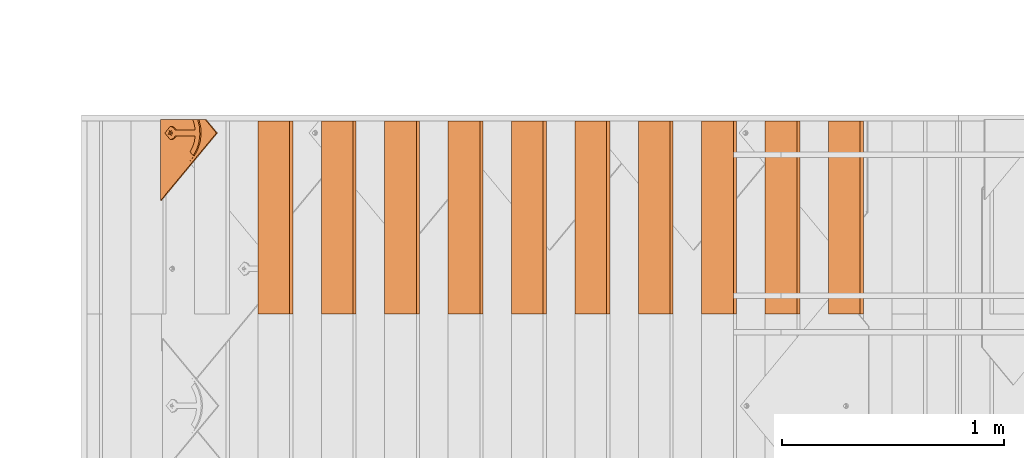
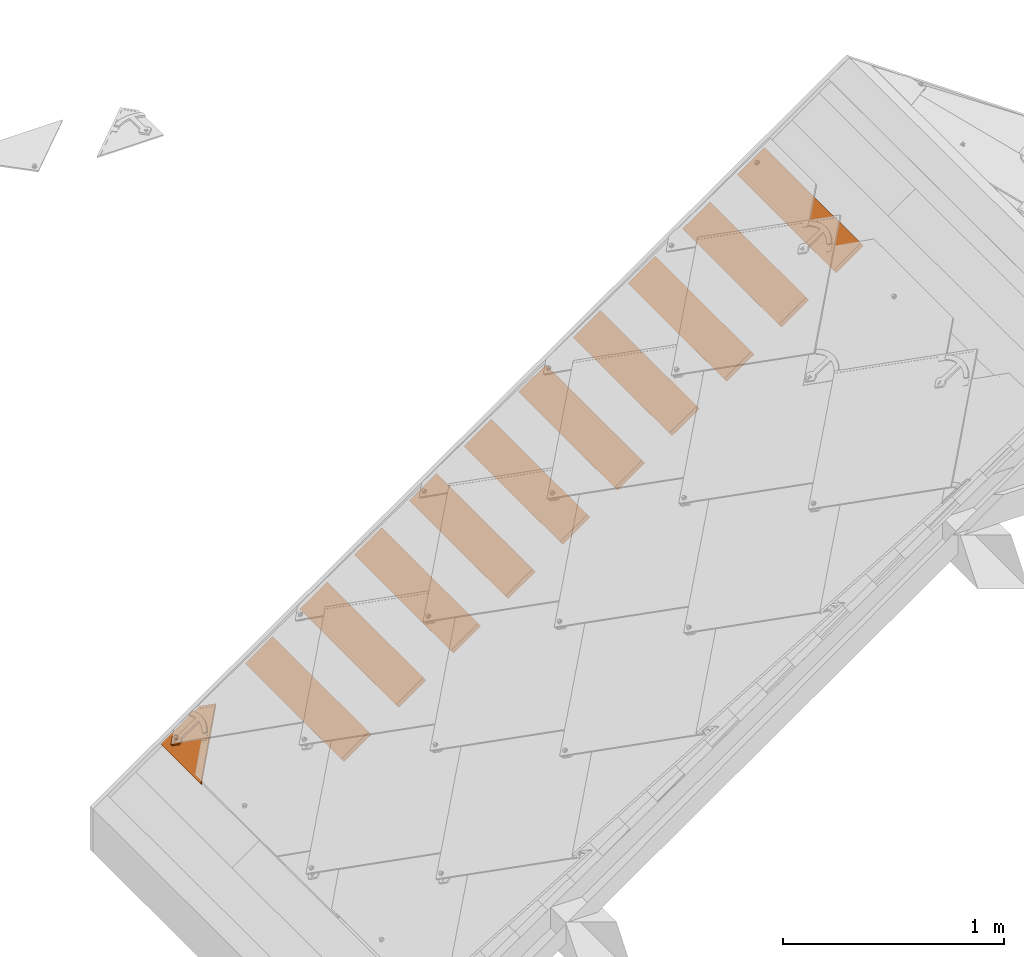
# One storey, part 121 of 151: 11 proxies, 1 element without a shape of its own.
"""IFC2X3 building model written with IfcOpenShell, lengths in millimetres."""

from ifc_helpers import new_model, entity, si_unit, converted_unit, derived_unit, direction, frame, frame_2d, origin, place, context, subcontext, project, spatial, rectangle, extrude, faceted_brep, source, transform, mapped, material, material_list, type_object, type_shapes, element, aggregate, save


model = new_model("IFC2X3")

# Units and contexts
model_context = context("Model", 3, precision=0.01, world=origin(), true_north=direction((6.12303176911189e-17, 1.0)))
body_context = subcontext(model_context, "Body", "Model", "MODEL_VIEW")
ifc_project = project(units=[si_unit("LENGTHUNIT", "METRE", prefix="MILLI"), si_unit("AREAUNIT", "SQUARE_METRE"), si_unit("VOLUMEUNIT", "CUBIC_METRE"), converted_unit("PLANEANGLEUNIT", "DEGREE", entity("IfcRatioMeasure", 0.0174532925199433), si_unit("PLANEANGLEUNIT", "RADIAN"), dimensions=[0, 0, 0, 0, 0, 0, 0]), si_unit("MASSUNIT", "GRAM", prefix="KILO"), derived_unit("MASSDENSITYUNIT", [(si_unit("MASSUNIT", "GRAM", prefix="KILO"), 1), (si_unit("LENGTHUNIT", "METRE"), -3)]), si_unit("TIMEUNIT", "SECOND"), si_unit("FREQUENCYUNIT", "HERTZ"), si_unit("THERMODYNAMICTEMPERATUREUNIT", "DEGREE_CELSIUS"), derived_unit("THERMALTRANSMITTANCEUNIT", [(si_unit("MASSUNIT", "GRAM", prefix="KILO"), 1), (si_unit("THERMODYNAMICTEMPERATUREUNIT", "KELVIN"), -1), (si_unit("TIMEUNIT", "SECOND"), -3)]), derived_unit("VOLUMETRICFLOWRATEUNIT", [(si_unit("LENGTHUNIT", "METRE"), 3), (si_unit("TIMEUNIT", "SECOND"), -1)]), si_unit("ELECTRICCURRENTUNIT", "AMPERE"), si_unit("ELECTRICVOLTAGEUNIT", "VOLT"), si_unit("POWERUNIT", "WATT"), si_unit("FORCEUNIT", "NEWTON", prefix="KILO"), si_unit("ILLUMINANCEUNIT", "LUX"), si_unit("LUMINOUSFLUXUNIT", "LUMEN"), si_unit("LUMINOUSINTENSITYUNIT", "CANDELA"), derived_unit("USERDEFINED", [(si_unit("MASSUNIT", "GRAM", prefix="KILO"), -1), (si_unit("LENGTHUNIT", "METRE"), -2), (si_unit("TIMEUNIT", "SECOND"), 3), (si_unit("LUMINOUSFLUXUNIT", "LUMEN"), 1)]), derived_unit("LINEARVELOCITYUNIT", [(si_unit("LENGTHUNIT", "METRE"), 1), (si_unit("TIMEUNIT", "SECOND"), -1)]), si_unit("PRESSUREUNIT", "PASCAL"), derived_unit("USERDEFINED", [(si_unit("LENGTHUNIT", "METRE"), -2), (si_unit("MASSUNIT", "GRAM", prefix="KILO"), 1), (si_unit("TIMEUNIT", "SECOND"), -2)])], contexts=[model_context])

# Site, building, storey
site_placement = place(None, origin())
site = spatial("IfcSite", under=ifc_project, at=site_placement, Name="Default", CompositionType="ELEMENT")
building_placement = place(site_placement, origin())
building = spatial("IfcBuilding", under=site, at=building_placement, CompositionType="ELEMENT")
storey_placement = place(building_placement, origin())
storey = spatial("IfcBuildingStorey", under=building, at=storey_placement, Name="Level 1", CompositionType="ELEMENT", Elevation=0.0)

# Assembly, proxies
assembly_placement = place(storey_placement, origin())
assembly = element("IfcElementAssembly", 1, at=assembly_placement, inside=storey, Name="Structural Framing Assembly:Roof Construction Assembly", ObjectType="Structural Framing Assembly:Roof Construction Assembly", AssemblyPlace="NOTDEFINED", PredefinedType="USERDEFINED")
ifc_material_1 = material(Name="Wood - Generic - Wood For Showcase")
building_element_proxy_type_1 = type_object("IfcBuildingElementProxyType", Name="Structural Framing 15", PredefinedType="NOTDEFINED", material=ifc_material_1)
shared_shape_1 = source(origin(), body_context, "Body", "SweptSolid", [
    extrude(rectangle(XDim=24.9999999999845, YDim=174.344679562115, at=frame_2d((-1.77635683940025e-13, -4.54747350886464e-13), x_axis=(0.0, 1.0))), frame((1128.20180147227, 3055.55080214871, 2760.23940055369), z_axis=(0.0, 1.0, 0.0), x_axis=(-0.819152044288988, 0.0, -0.573576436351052)), (0.0, 0.0, 1.0), 870.000000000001),
])
type_shapes(building_element_proxy_type_1, [shared_shape_1])
proxy_1_placement = place(assembly_placement, frame((-370.956530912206, 0.0, -300.0)))
proxy_1 = element("IfcBuildingElementProxy", 2, at=proxy_1_placement, type_object=building_element_proxy_type_1, material=ifc_material_1, Name="Structural Framing 34:Structural Framing 15", ObjectType="Structural Framing 34:Structural Framing 15", context=body_context, shape_type="MappedRepresentation", body=[
    mapped(shared_shape_1, transform((0.0, 0.0, 0.0), scale=1.0)),
])
building_element_proxy_type_2 = type_object("IfcBuildingElementProxyType", Name="Structural Framing 15", PredefinedType="NOTDEFINED", material=ifc_material_1)
shared_shape_2 = source(origin(), body_context, "Body", "SweptSolid", [
    extrude(rectangle(XDim=24.9999999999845, YDim=174.344679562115, at=frame_2d((-1.77635683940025e-13, -4.54747350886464e-13), x_axis=(0.0, 1.0))), frame((1128.20180147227, 3055.55080214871, 2760.23940055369), z_axis=(0.0, 1.0, 0.0), x_axis=(-0.819152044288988, 0.0, -0.573576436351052)), (0.0, 0.0, 1.0), 870.000000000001),
])
type_shapes(building_element_proxy_type_2, [shared_shape_2])
proxy_2_placement = place(assembly_placement, frame((-656.586132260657, 0.0, -500.0)))
proxy_2 = element("IfcBuildingElementProxy", 3, at=proxy_2_placement, type_object=building_element_proxy_type_2, material=ifc_material_1, Name="Structural Framing 44:Structural Framing 15", ObjectType="Structural Framing 44:Structural Framing 15", context=body_context, shape_type="MappedRepresentation", body=[
    mapped(shared_shape_2, transform((0.0, 0.0, 0.0), scale=1.0)),
])
building_element_proxy_type_3 = type_object("IfcBuildingElementProxyType", Name="Structural Framing 15", PredefinedType="NOTDEFINED", material=ifc_material_1)
shared_shape_3 = source(origin(), body_context, "Body", "SweptSolid", [
    extrude(rectangle(XDim=24.9999999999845, YDim=174.344679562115, at=frame_2d((-1.77635683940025e-13, -4.54747350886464e-13), x_axis=(0.0, 1.0))), frame((1128.20180147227, 3055.55080214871, 2760.23940055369), z_axis=(0.0, 1.0, 0.0), x_axis=(-0.819152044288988, 0.0, -0.573576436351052)), (0.0, 0.0, 1.0), 870.000000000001),
])
type_shapes(building_element_proxy_type_3, [shared_shape_3])
proxy_3_placement = place(assembly_placement, frame((-942.215733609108, 0.0, -700.0)))
proxy_3 = element("IfcBuildingElementProxy", 4, at=proxy_3_placement, type_object=building_element_proxy_type_3, material=ifc_material_1, Name="Structural Framing 54:Structural Framing 15", ObjectType="Structural Framing 54:Structural Framing 15", context=body_context, shape_type="MappedRepresentation", body=[
    mapped(shared_shape_3, transform((0.0, 0.0, 0.0), scale=1.0)),
])
building_element_proxy_type_4 = type_object("IfcBuildingElementProxyType", Name="Structural Framing 15", PredefinedType="NOTDEFINED", material=ifc_material_1)
shared_shape_4 = source(origin(), body_context, "Body", "SweptSolid", [
    extrude(rectangle(XDim=24.9999999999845, YDim=174.344679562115, at=frame_2d((-1.77635683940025e-13, -4.54747350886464e-13), x_axis=(0.0, 1.0))), frame((1128.20180147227, 3055.55080214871, 2760.23940055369), z_axis=(0.0, 1.0, 0.0), x_axis=(-0.819152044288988, 0.0, -0.573576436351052)), (0.0, 0.0, 1.0), 870.000000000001),
])
type_shapes(building_element_proxy_type_4, [shared_shape_4])
proxy_4_placement = place(assembly_placement, frame((-1227.84533495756, 0.0, -900.0)))
proxy_4 = element("IfcBuildingElementProxy", 5, at=proxy_4_placement, type_object=building_element_proxy_type_4, material=ifc_material_1, Name="Structural Framing 64:Structural Framing 15", ObjectType="Structural Framing 64:Structural Framing 15", context=body_context, shape_type="MappedRepresentation", body=[
    mapped(shared_shape_4, transform((0.0, 0.0, 0.0), scale=1.0)),
])
building_element_proxy_type_5 = type_object("IfcBuildingElementProxyType", Name="Structural Framing 15", PredefinedType="NOTDEFINED", material=ifc_material_1)
shared_shape_5 = source(origin(), body_context, "Body", "SweptSolid", [
    extrude(rectangle(XDim=24.9999999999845, YDim=174.344679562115, at=frame_2d((-1.77635683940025e-13, -4.54747350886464e-13), x_axis=(0.0, 1.0))), frame((1128.20180147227, 3055.55080214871, 2760.23940055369), z_axis=(0.0, 1.0, 0.0), x_axis=(-0.819152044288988, 0.0, -0.573576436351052)), (0.0, 0.0, 1.0), 870.000000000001),
])
type_shapes(building_element_proxy_type_5, [shared_shape_5])
proxy_5_placement = place(assembly_placement, frame((-1513.47493630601, 0.0, -1100.0)))
proxy_5 = element("IfcBuildingElementProxy", 6, at=proxy_5_placement, type_object=building_element_proxy_type_5, material=ifc_material_1, Name="Structural Framing 74:Structural Framing 15", ObjectType="Structural Framing 74:Structural Framing 15", context=body_context, shape_type="MappedRepresentation", body=[
    mapped(shared_shape_5, transform((0.0, 0.0, 0.0), scale=1.0)),
])
building_element_proxy_type_6 = type_object("IfcBuildingElementProxyType", Name="Structural Framing 15", PredefinedType="NOTDEFINED", material=ifc_material_1)
shared_shape_6 = source(origin(), body_context, "Body", "SweptSolid", [
    extrude(rectangle(XDim=24.9999999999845, YDim=174.344679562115, at=frame_2d((-1.77635683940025e-13, -4.54747350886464e-13), x_axis=(0.0, 1.0))), frame((1128.20180147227, 3055.55080214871, 2760.23940055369), z_axis=(0.0, 1.0, 0.0), x_axis=(-0.819152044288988, 0.0, -0.573576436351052)), (0.0, 0.0, 1.0), 870.000000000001),
])
type_shapes(building_element_proxy_type_6, [shared_shape_6])
proxy_6_placement = place(assembly_placement, frame((-1799.10453765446, 0.0, -1300.0)))
proxy_6 = element("IfcBuildingElementProxy", 7, at=proxy_6_placement, type_object=building_element_proxy_type_6, material=ifc_material_1, Name="Structural Framing 84:Structural Framing 15", ObjectType="Structural Framing 84:Structural Framing 15", context=body_context, shape_type="MappedRepresentation", body=[
    mapped(shared_shape_6, transform((0.0, 0.0, 0.0), scale=1.0)),
])
building_element_proxy_type_7 = type_object("IfcBuildingElementProxyType", Name="Structural Framing 15", PredefinedType="NOTDEFINED", material=ifc_material_1)
shared_shape_7 = source(origin(), body_context, "Body", "SweptSolid", [
    extrude(rectangle(XDim=24.9999999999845, YDim=174.344679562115, at=frame_2d((-1.77635683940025e-13, -4.54747350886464e-13), x_axis=(0.0, 1.0))), frame((1128.20180147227, 3055.55080214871, 2760.23940055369), z_axis=(0.0, 1.0, 0.0), x_axis=(-0.819152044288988, 0.0, -0.573576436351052)), (0.0, 0.0, 1.0), 870.000000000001),
])
type_shapes(building_element_proxy_type_7, [shared_shape_7])
proxy_7_placement = place(assembly_placement, frame((-2084.73413900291, 0.0, -1500.0)))
proxy_7 = element("IfcBuildingElementProxy", 8, at=proxy_7_placement, type_object=building_element_proxy_type_7, material=ifc_material_1, Name="Structural Framing 94:Structural Framing 15", ObjectType="Structural Framing 94:Structural Framing 15", context=body_context, shape_type="MappedRepresentation", body=[
    mapped(shared_shape_7, transform((0.0, 0.0, 0.0), scale=1.0)),
])
building_element_proxy_type_8 = type_object("IfcBuildingElementProxyType", Name="Structural Framing 15", PredefinedType="NOTDEFINED", material=ifc_material_1)
shared_shape_8 = source(origin(), body_context, "Body", "SweptSolid", [
    extrude(rectangle(XDim=24.9999999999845, YDim=174.344679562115, at=frame_2d((-1.77635683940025e-13, -4.54747350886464e-13), x_axis=(0.0, 1.0))), frame((1128.20180147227, 3055.55080214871, 2760.23940055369), z_axis=(0.0, 1.0, 0.0), x_axis=(-0.819152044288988, 0.0, -0.573576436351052)), (0.0, 0.0, 1.0), 870.000000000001),
])
type_shapes(building_element_proxy_type_8, [shared_shape_8])
proxy_8_placement = place(assembly_placement, frame((-2370.36374035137, 0.0, -1700.0)))
proxy_8 = element("IfcBuildingElementProxy", 9, at=proxy_8_placement, type_object=building_element_proxy_type_8, material=ifc_material_1, Name="Structural Framing 104:Structural Framing 15", ObjectType="Structural Framing 104:Structural Framing 15", context=body_context, shape_type="MappedRepresentation", body=[
    mapped(shared_shape_8, transform((0.0, 0.0, 0.0), scale=1.0)),
])
building_element_proxy_type_9 = type_object("IfcBuildingElementProxyType", Name="Structural Framing 15", PredefinedType="NOTDEFINED", material=ifc_material_1)
shared_shape_9 = source(origin(), body_context, "Body", "SweptSolid", [
    extrude(rectangle(XDim=24.9999999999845, YDim=174.344679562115, at=frame_2d((-1.77635683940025e-13, -4.54747350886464e-13), x_axis=(0.0, 1.0))), frame((1128.20180147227, 3055.55080214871, 2760.23940055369), z_axis=(0.0, 1.0, 0.0), x_axis=(-0.819152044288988, 0.0, -0.573576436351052)), (0.0, 0.0, 1.0), 870.000000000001),
])
type_shapes(building_element_proxy_type_9, [shared_shape_9])
proxy_9_placement = place(assembly_placement, frame((-2655.99334169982, 0.0, -1900.0)))
proxy_9 = element("IfcBuildingElementProxy", 10, at=proxy_9_placement, type_object=building_element_proxy_type_9, material=ifc_material_1, Name="Structural Framing 114:Structural Framing 15", ObjectType="Structural Framing 114:Structural Framing 15", context=body_context, shape_type="MappedRepresentation", body=[
    mapped(shared_shape_9, transform((0.0, 0.0, 0.0), scale=1.0)),
])
building_element_proxy_type_10 = type_object("IfcBuildingElementProxyType", Name="Structural Framing 15", PredefinedType="NOTDEFINED", material=ifc_material_1)
shared_shape_10 = source(origin(), body_context, "Body", "SweptSolid", [
    extrude(rectangle(XDim=24.9999999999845, YDim=174.344679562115, at=frame_2d((-1.77635683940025e-13, -4.54747350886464e-13), x_axis=(0.0, 1.0))), frame((1128.20180147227, 3055.55080214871, 2760.23940055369), z_axis=(0.0, 1.0, 0.0), x_axis=(-0.819152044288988, 0.0, -0.573576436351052)), (0.0, 0.0, 1.0), 870.000000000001),
])
type_shapes(building_element_proxy_type_10, [shared_shape_10])
proxy_10_placement = place(assembly_placement, frame((-2941.62294304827, 0.0, -2100.0)))
proxy_10 = element("IfcBuildingElementProxy", 11, at=proxy_10_placement, type_object=building_element_proxy_type_10, material=ifc_material_1, Name="Structural Framing 124:Structural Framing 15", ObjectType="Structural Framing 124:Structural Framing 15", context=body_context, shape_type="MappedRepresentation", body=[
    mapped(shared_shape_10, transform((0.0, 0.0, 0.0), scale=1.0)),
])
aggregate(assembly, [proxy_1, proxy_2, proxy_3, proxy_4, proxy_5, proxy_6, proxy_7, proxy_8, proxy_9, proxy_10])

# Proxy
ifc_material_2 = material(Name="Rubber - Sunstyle - Black")
ifc_material_3 = material(Name="Glass - Sunstyle - Tainted Black")
ifc_material_list_1 = material_list([ifc_material_2, ifc_material_3])
ifc_material_list_2 = material_list([ifc_material_2, ifc_material_3])
building_element_proxy_type_11 = type_object("IfcBuildingElementProxyType", Name="Corner Bottom Small Left - Black", PredefinedType="NOTDEFINED", material=ifc_material_list_2)
shared_shape_11 = source(origin(), body_context, "Body", "Brep", [
    faceted_brep([(330.847757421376, 18.4932261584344, 12.2894055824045), (339.332443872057, 26.9779126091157, 12.1473081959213), (339.332443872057, 27.0030303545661, 13.6470978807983), (330.847757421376, 18.5183439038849, 13.7891952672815), (61.6993486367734, 287.566165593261, 7.7831033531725), (10.0799586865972, 235.961249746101, 8.64735729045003), (1.59527223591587, 244.445936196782, 8.50525990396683), (61.6993486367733, 304.533159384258, 7.49894842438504), (61.6993486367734, 304.558277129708, 8.9987381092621), (1.59527223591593, 244.471053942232, 10.0050495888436), (10.0799586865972, 235.986367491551, 10.147146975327), (61.6993486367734, 287.591283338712, 9.2828930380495)], [[[0, 1, 2, 3]], [[1, 0, 4, 5, 6, 7]], [[2, 1, 7, 8]], [[3, 2, 8, 9, 10, 11]], [[0, 3, 11, 4]], [[5, 10, 9, 6]], [[8, 7, 6, 9]], [[4, 11, 10, 5]]]),
    faceted_brep([(61.6990261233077, 46.946835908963, 21.8142807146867), (61.6990261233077, 51.4462045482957, 21.7389274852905), (53.0953219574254, 50.5101071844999, 21.7546047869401), (70.3027302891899, 50.5101071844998, 21.7546047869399), (68.3392547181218, 55.2794047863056, 21.6747309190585), (73.8665012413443, 59.1126050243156, 21.6105343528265), (68.3392547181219, 62.9458052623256, 21.5463377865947), (70.30273028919, 67.7151028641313, 21.4664639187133), (61.6990261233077, 66.7790055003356, 21.4821412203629), (61.6990261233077, 71.2783741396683, 21.4067879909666), (53.0953219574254, 67.7151028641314, 21.4664639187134), (55.0587975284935, 62.9458052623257, 21.5463377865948), (49.5315510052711, 59.1126050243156, 21.6105343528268), (55.0587975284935, 55.2794047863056, 21.6747309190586), (55.0587978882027, 62.6778824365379, 5.54858115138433), (61.6990261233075, 66.5110824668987, 5.48438458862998), (55.0587978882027, 55.0114823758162, 5.6769742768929), (61.6990261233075, 51.1782823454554, 5.74117083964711), (68.3392543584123, 55.0114823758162, 5.67697427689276), (68.3392543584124, 62.6778824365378, 5.5485811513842), (53.0953219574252, 50.2421845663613, 5.75684814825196), (61.6990261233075, 46.6789132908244, 5.81652407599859), (49.5315510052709, 58.844682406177, 5.61277771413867), (53.0953219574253, 67.4471802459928, 5.4687072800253), (61.6990261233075, 71.0104515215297, 5.4090313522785), (70.3027302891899, 67.4471802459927, 5.46870728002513), (73.8665012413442, 58.844682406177, 5.61277771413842), (70.3027302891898, 50.2421845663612, 5.75684814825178)], [[[0, 1, 2]], [[1, 0, 3]], [[3, 4, 1]], [[4, 3, 5]], [[6, 4, 5]], [[5, 7, 6]], [[7, 8, 6]], [[8, 7, 9]], [[8, 9, 10]], [[10, 11, 8]], [[12, 11, 10]], [[2, 13, 12]], [[12, 13, 11]], [[13, 2, 1]], [[8, 11, 14, 15]], [[11, 13, 16, 14]], [[13, 1, 17, 16]], [[1, 4, 18, 17]], [[4, 6, 19, 18]], [[6, 8, 15, 19]], [[20, 17, 21]], [[17, 20, 16]], [[22, 16, 20]], [[14, 16, 22]], [[23, 14, 22]], [[15, 14, 23]], [[23, 24, 15]], [[24, 25, 15]], [[19, 15, 25]], [[19, 25, 26]], [[26, 18, 19]], [[26, 27, 18]], [[17, 18, 27]], [[27, 21, 17]], [[24, 23, 10, 9]], [[10, 23, 22, 12]], [[20, 21, 0, 2]], [[20, 2, 12, 22]], [[21, 27, 3, 0]], [[3, 27, 26, 5]], [[25, 24, 9, 7]], [[25, 7, 5, 26]]]),
    faceted_brep([(1.59527223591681, 244.445936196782, 8.50525990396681), (58.5931975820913, 70.7020897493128, 11.4150370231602), (61.6990261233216, 71.1109225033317, 11.4081900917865), (55.6990261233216, 69.5034527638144, 11.4351112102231), (64.8048546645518, 70.7020897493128, 11.4150370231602), (53.213744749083, 67.596696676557, 11.4670446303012), (51.3067212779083, 65.1117637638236, 11.5086610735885), (1.5952722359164, 0.125588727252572, 12.5970178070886), (67.6990261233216, 69.5034527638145, 11.4351112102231), (61.6993486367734, 304.533159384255, 7.49894842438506), (50.1079162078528, 62.2179980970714, 11.5571244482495), (49.6990261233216, 59.1126050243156, 11.6091320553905), (50.1079162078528, 56.0072119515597, 11.6611396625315), (51.3067212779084, 53.1134462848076, 11.7096030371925), (53.2137447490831, 50.6285133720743, 11.7512194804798), (55.6990261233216, 48.7217572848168, 11.7831529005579), (58.5931975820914, 47.5231202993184, 11.8032270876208), (61.6990261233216, 47.1142875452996, 11.8100740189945), (64.8048546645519, 47.5231202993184, 11.8032270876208), (67.6990261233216, 48.7217572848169, 11.7831529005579), (366.192299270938, 0.125588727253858, 12.5970178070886), (72.0913309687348, 65.1117637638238, 11.5086610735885), (73.2901360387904, 62.2179980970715, 11.5571244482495), (73.6990261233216, 59.1126050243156, 11.6091320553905), (70.1843074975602, 50.6285133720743, 11.7512194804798), (72.0913309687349, 53.1134462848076, 11.7096030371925), (73.2901360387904, 56.0072119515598, 11.6611396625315), (70.1843074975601, 67.596696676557, 11.4670446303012), (1.5952722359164, 0.0, 5.09806938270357), (55.6990261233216, 48.5961685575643, 4.2842044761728), (58.5931975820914, 47.3975315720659, 4.30427866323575), (53.2137447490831, 50.5029246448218, 4.25227105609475), (61.6990261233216, 46.9886988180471, 4.3111255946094), (51.3067212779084, 52.9878575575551, 4.21065461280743), (50.1079162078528, 55.8816232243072, 4.16219123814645), (49.6990261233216, 58.9870162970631, 4.11018363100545), (50.1079162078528, 62.0924093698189, 4.05817602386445), (64.8048546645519, 47.3975315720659, 4.30427866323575), (67.6990261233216, 48.5961685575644, 4.2842044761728), (366.192299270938, 0.0, 5.09806938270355), (51.3067212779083, 64.9861750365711, 4.00971264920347), (1.59527223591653, 244.320347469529, 1.00631147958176), (53.213744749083, 67.4711079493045, 3.96809620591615), (55.6990261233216, 69.3778640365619, 3.93616278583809), (58.5931975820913, 70.5765010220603, 3.91608859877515), (61.6990261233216, 70.9853337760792, 3.90924166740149), (64.8048546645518, 70.5765010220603, 3.91608859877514), (67.6990261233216, 69.377864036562, 3.93616278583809), (61.6993486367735, 304.407570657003, 0.0), (72.0913309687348, 64.9861750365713, 4.00971264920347), (70.1843074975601, 67.4711079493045, 3.96809620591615), (70.1843074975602, 50.5029246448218, 4.25227105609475), (72.0913309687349, 52.9878575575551, 4.21065461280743), (73.2901360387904, 55.8816232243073, 4.16219123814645), (73.6990261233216, 58.9870162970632, 4.11018363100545), (73.2901360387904, 62.092409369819, 4.05817602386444)], [[[0, 1, 2]], [[1, 0, 3]], [[0, 2, 4]], [[5, 3, 0]], [[6, 5, 0]], [[6, 0, 7]], [[8, 0, 4]], [[0, 8, 9]], [[7, 10, 6]], [[11, 10, 7]], [[12, 11, 7]], [[13, 12, 7]], [[7, 14, 13]], [[14, 7, 15]], [[16, 15, 7]], [[7, 17, 16]], [[17, 7, 18]], [[19, 18, 7]], [[20, 19, 7]], [[9, 21, 20]], [[20, 21, 22]], [[20, 22, 23]], [[19, 20, 24]], [[25, 24, 20]], [[26, 25, 20]], [[26, 20, 23]], [[9, 8, 27]], [[27, 21, 9]], [[28, 29, 30]], [[29, 28, 31]], [[28, 30, 32]], [[33, 31, 28]], [[34, 33, 28]], [[35, 34, 28]], [[28, 36, 35]], [[37, 28, 32]], [[37, 38, 28]], [[28, 38, 39]], [[36, 28, 40]], [[28, 41, 40]], [[42, 40, 41]], [[41, 43, 42]], [[43, 41, 44]], [[45, 44, 41]], [[41, 46, 45]], [[41, 47, 46]], [[47, 41, 48]], [[49, 48, 39]], [[50, 47, 48]], [[48, 49, 50]], [[38, 51, 39]], [[51, 52, 39]], [[52, 53, 39]], [[39, 53, 54]], [[55, 39, 54]], [[49, 39, 55]], [[11, 35, 36, 10]], [[10, 36, 40, 6]], [[3, 5, 42, 43]], [[40, 42, 5, 6]], [[1, 3, 43, 44]], [[45, 2, 1, 44]], [[4, 46, 47, 8]], [[8, 47, 50, 27]], [[22, 21, 49, 55]], [[50, 49, 21, 27]], [[23, 22, 55, 54]], [[4, 2, 45, 46]], [[23, 54, 53, 26]], [[26, 53, 52, 25]], [[19, 24, 51, 38]], [[52, 51, 24, 25]], [[18, 19, 38, 37]], [[32, 17, 18, 37]], [[16, 30, 29, 15]], [[15, 29, 31, 14]], [[12, 13, 33, 34]], [[31, 33, 13, 14]], [[11, 12, 34, 35]], [[16, 17, 32, 30]], [[0, 9, 48, 41]], [[7, 0, 41, 28]], [[20, 7, 28, 39]], [[9, 20, 39, 48]]]),
    faceted_brep([(1.59527223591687, 209.239382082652, 19.0962843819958), (1.59527223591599, 182.513149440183, 19.5438822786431), (24.4390403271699, 190.969673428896, 19.4022565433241), (34.6448586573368, 218.551914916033, 18.9403226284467), (48.3990261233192, 195.36105911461, 19.3287117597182), (68.9162632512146, 220.671424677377, 18.9048261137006), (74.999026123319, 195.361059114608, 19.3287117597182), (74.99902612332, 85.4841763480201, 21.1688761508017), (48.3990261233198, 85.4841763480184, 21.1688761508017), (61.6990261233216, 71.2783741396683, 21.4067879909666), (58.5931975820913, 70.8695413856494, 21.4136349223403), (55.6990261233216, 69.670904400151, 21.4337091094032), (42.9949199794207, 81.9461281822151, 21.2281296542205), (53.213744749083, 67.7641483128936, 21.4656425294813), (38.4943757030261, 77.3131226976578, 21.3057209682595), (51.3067212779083, 65.2792154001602, 21.5072589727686), (35.1148065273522, 71.8089720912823, 21.397901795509), (50.1079162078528, 62.385449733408, 21.5557223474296), (33.0194733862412, 65.6995720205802, 21.5002190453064), (49.6990261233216, 59.2800566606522, 21.6077299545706), (32.3095980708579, 59.2800566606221, 21.6077299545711), (50.1079162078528, 56.1746635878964, 21.6597375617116), (51.3067212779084, 53.2808979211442, 21.7082009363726), (53.2137447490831, 50.7959650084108, 21.7498173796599), (61.6990261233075, 29.8947493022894, 22.0998607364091), (55.6990261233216, 48.8892089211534, 21.7817507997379), (58.5931975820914, 47.690571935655, 21.8018249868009), (61.6990261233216, 47.2817391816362, 21.8086719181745), (64.8048546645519, 47.690571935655, 21.8018249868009), (67.6990261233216, 48.8892089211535, 21.7817507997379), (70.1843074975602, 50.7959650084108, 21.7498173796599), (91.0884541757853, 59.2800566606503, 21.6077299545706), (72.0913309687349, 53.2808979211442, 21.7082009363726), (73.2901360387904, 56.1746635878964, 21.6597375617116), (73.6990261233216, 59.2800566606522, 21.6077299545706), (90.3785788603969, 65.699572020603, 21.500219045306), (73.2901360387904, 62.3854497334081, 21.5557223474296), (88.2832457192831, 71.8089720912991, 21.3979017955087), (72.0913309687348, 65.2792154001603, 21.5072589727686), (84.9036765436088, 77.3131226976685, 21.3057209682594), (70.1843074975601, 67.7641483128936, 21.4656425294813), (80.4031322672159, 81.9461281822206, 21.2281296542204), (67.6990261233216, 69.6709044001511, 21.4337091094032), (64.8048546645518, 70.8695413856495, 21.4136349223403), (102.861723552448, 215.50219023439, 18.9913979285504), (100.468768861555, 190.546178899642, 19.4093490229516), (134.948197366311, 203.277664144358, 19.1961283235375), (124.623359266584, 181.142545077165, 19.5668364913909), (146.643422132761, 167.469148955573, 19.7958318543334), (163.72659789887, 184.549929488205, 19.5097712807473), (51.3067212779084, 53.1134462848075, 11.7096030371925), (32.3095980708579, 59.1126050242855, 11.609132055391), (50.1079162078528, 56.0072119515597, 11.6611396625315), (53.2137447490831, 50.6285133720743, 11.7512194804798), (61.6990261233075, 29.7272976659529, 12.1012628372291), (55.6990261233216, 48.7217572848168, 11.7831529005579), (58.5931975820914, 47.5231202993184, 11.8032270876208), (61.6990261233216, 47.1142875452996, 11.8100740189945), (64.8048546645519, 47.5231202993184, 11.8032270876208), (67.6990261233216, 48.7217572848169, 11.7831529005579), (70.1843074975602, 50.6285133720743, 11.7512194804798), (91.0884541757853, 59.1126050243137, 11.6091320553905), (72.0913309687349, 53.1134462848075, 11.7096030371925), (73.2901360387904, 56.0072119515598, 11.6611396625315), (73.6990261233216, 59.1126050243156, 11.6091320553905), (90.3785788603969, 65.5321203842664, 11.5016211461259), (73.2901360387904, 62.2179980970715, 11.5571244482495), (88.2832457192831, 71.6415204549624, 11.3993038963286), (72.0913309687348, 65.1117637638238, 11.5086610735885), (84.9036765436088, 77.1456710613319, 11.3071230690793), (70.1843074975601, 67.596696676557, 11.4670446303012), (80.4031322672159, 81.778676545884, 11.2295317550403), (67.6990261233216, 69.5034527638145, 11.4351112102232), (74.99902612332, 85.3167247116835, 11.1702782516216), (64.8048546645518, 70.7020897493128, 11.4150370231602), (61.6990261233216, 71.1109225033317, 11.4081900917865), (48.39902612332, 85.3167247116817, 11.1702782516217), (58.5931975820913, 70.7020897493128, 11.4150370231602), (55.6990261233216, 69.5034527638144, 11.4351112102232), (42.9949199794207, 81.7786765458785, 11.2295317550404), (53.213744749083, 67.596696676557, 11.4670446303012), (38.4943757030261, 77.1456710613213, 11.3071230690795), (51.3067212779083, 65.1117637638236, 11.5086610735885), (35.1148065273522, 71.6415204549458, 11.3993038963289), (50.1079162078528, 62.2179980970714, 11.5571244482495), (33.0194733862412, 65.5321203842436, 11.5016211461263), (49.6990261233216, 59.1126050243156, 11.6091320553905), (48.3990261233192, 195.193607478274, 9.33011386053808), (74.99902612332, 195.193607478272, 9.33011386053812), (68.9162632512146, 220.50397304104, 8.90622821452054), (34.6448586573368, 218.384463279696, 8.94172472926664), (24.4390403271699, 190.802221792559, 9.40365864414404), (1.59527223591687, 209.071930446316, 9.09768648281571), (1.59527223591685, 182.345697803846, 9.545284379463), (102.861723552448, 215.334738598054, 8.99280002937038), (100.468768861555, 190.378727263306, 9.4107511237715), (134.948197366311, 203.110212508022, 9.19753042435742), (124.623359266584, 180.975093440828, 9.5682385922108), (146.643422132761, 167.301697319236, 9.79723395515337), (163.72659789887, 184.382477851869, 9.51117338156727), (169.978999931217, 179.020830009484, 9.60096764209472), (175.949995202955, 173.347554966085, 9.69598088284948), (172.968069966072, 140.980740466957, 10.2380444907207), (190.645739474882, 158.655931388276, 9.94202902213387), (190.645739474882, 158.69779429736, 12.4416784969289), (172.968069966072, 141.022603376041, 12.7376939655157), (163.72659789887, 184.424340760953, 12.0108228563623), (146.643422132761, 167.34356022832, 12.2968834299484), (175.949995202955, 173.38941787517, 12.1956303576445), (169.978999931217, 179.062692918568, 12.1006171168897)], [[[0, 1, 2]], [[0, 2, 3]], [[2, 4, 3]], [[3, 4, 5]], [[5, 4, 6]], [[7, 6, 4]], [[7, 4, 8]], [[9, 7, 8]], [[9, 8, 10]], [[10, 8, 11]], [[12, 11, 8]], [[11, 12, 13]], [[14, 13, 12]], [[13, 14, 15]], [[15, 14, 16]], [[17, 15, 16]], [[18, 17, 16]], [[18, 19, 17]], [[19, 18, 20]], [[20, 21, 19]], [[20, 22, 21]], [[22, 20, 23]], [[23, 20, 24]], [[24, 25, 23]], [[26, 25, 24]], [[24, 27, 26]], [[28, 27, 24]], [[28, 24, 29]], [[30, 29, 24]], [[30, 24, 31]], [[31, 32, 30]], [[33, 32, 31]], [[31, 34, 33]], [[35, 34, 31]], [[34, 35, 36]], [[36, 35, 37]], [[36, 37, 38]], [[38, 37, 39]], [[39, 40, 38]], [[39, 41, 40]], [[7, 42, 41]], [[40, 41, 42]], [[42, 7, 43]], [[43, 7, 9]], [[44, 5, 6]], [[44, 6, 45]], [[45, 46, 44]], [[46, 45, 47]], [[47, 48, 46]], [[49, 46, 48]], [[50, 51, 52]], [[51, 50, 53]], [[51, 53, 54]], [[54, 53, 55]], [[55, 56, 54]], [[57, 54, 56]], [[54, 57, 58]], [[54, 58, 59]], [[59, 60, 54]], [[54, 60, 61]], [[61, 60, 62]], [[62, 63, 61]], [[64, 61, 63]], [[61, 64, 65]], [[66, 65, 64]], [[67, 65, 66]], [[67, 66, 68]], [[67, 68, 69]], [[69, 68, 70]], [[71, 69, 70]], [[70, 72, 71]], [[73, 71, 72]], [[74, 73, 72]], [[73, 74, 75]], [[76, 73, 75]], [[75, 77, 76]], [[76, 77, 78]], [[79, 76, 78]], [[78, 80, 79]], [[81, 79, 80]], [[81, 80, 82]], [[82, 83, 81]], [[82, 84, 83]], [[84, 85, 83]], [[86, 85, 84]], [[52, 51, 86]], [[85, 86, 51]], [[87, 73, 76]], [[88, 73, 87]], [[88, 87, 89]], [[90, 89, 87]], [[87, 91, 90]], [[91, 92, 90]], [[93, 92, 91]], [[88, 89, 94]], [[88, 94, 95]], [[96, 95, 94]], [[96, 97, 95]], [[97, 96, 98]], [[96, 99, 98]], [[98, 99, 100]], [[98, 100, 101]], [[101, 102, 98]], [[102, 101, 103]], [[8, 4, 87, 76]], [[12, 8, 76, 79]], [[14, 12, 79, 81]], [[81, 83, 16, 14]], [[18, 16, 83, 85]], [[20, 18, 85, 51]], [[24, 20, 51, 54]], [[31, 24, 54, 61]], [[104, 105, 102, 103]], [[35, 31, 61, 65]], [[37, 35, 65, 67]], [[67, 69, 39, 37]], [[41, 39, 69, 71]], [[7, 41, 71, 73]], [[6, 7, 73, 88]], [[106, 99, 96, 46, 49]], [[46, 96, 94, 44]], [[5, 44, 94, 89]], [[3, 5, 89, 90]], [[92, 0, 3, 90]], [[19, 86, 84, 17]], [[17, 84, 82, 15]], [[11, 13, 80, 78]], [[82, 80, 13, 15]], [[10, 11, 78, 77]], [[75, 9, 10, 77]], [[43, 74, 72, 42]], [[42, 72, 70, 40]], [[36, 38, 68, 66]], [[70, 68, 38, 40]], [[34, 36, 66, 64]], [[43, 9, 75, 74]], [[34, 64, 63, 33]], [[33, 63, 62, 32]], [[29, 30, 60, 59]], [[62, 60, 30, 32]], [[28, 29, 59, 58]], [[57, 27, 28, 58]], [[26, 56, 55, 25]], [[25, 55, 53, 23]], [[21, 22, 50, 52]], [[53, 50, 22, 23]], [[19, 21, 52, 86]], [[26, 27, 57, 56]], [[49, 48, 107, 106]], [[93, 91, 2, 1]], [[87, 4, 2, 91]], [[88, 95, 45, 6]], [[95, 97, 47, 45]], [[107, 48, 47, 97, 98]], [[1, 0, 92, 93]], [[104, 108, 109, 106, 107, 105]], [[108, 104, 103, 101]], [[108, 101, 100, 109]], [[100, 99, 106, 109]], [[105, 107, 98, 102]]]),
])
type_shapes(building_element_proxy_type_11, [shared_shape_11])
proxy_11_placement = place(storey_placement, frame((-2323.55587512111, 3932.04961596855, 316.474131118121), z_axis=(-0.573576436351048, 0.0, 0.81915204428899), x_axis=(0.0, -1.0, 0.0)))
element("IfcBuildingElementProxy", 12, at=proxy_11_placement, inside=storey, type_object=building_element_proxy_type_11, material=ifc_material_list_1, Name="Roofing_Panels_SunStyle_Tile_Corner-Bottom-Small-Left:Corner Bottom Small Left - Black", ObjectType="Roofing_Panels_SunStyle_Tile_Corner-Bottom-Small-Left:Corner Bottom Small Left - Black", context=body_context, shape_type="MappedRepresentation", body=[
    mapped(shared_shape_11, transform((0.0, 0.0, 0.0), scale=1.0)),
])

save(model, "model.ifc")
